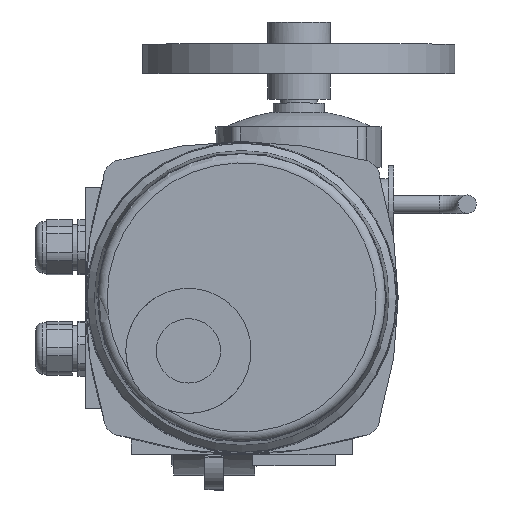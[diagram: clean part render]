
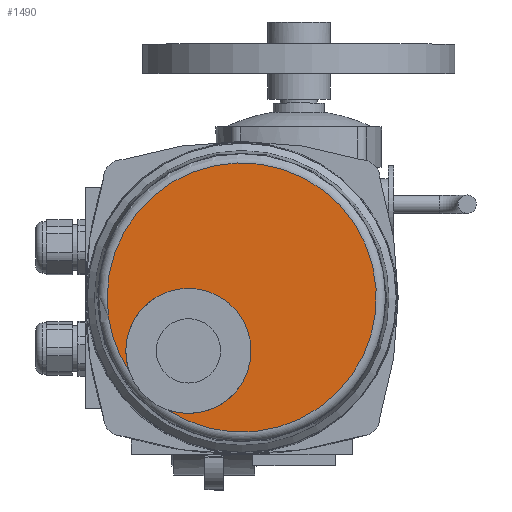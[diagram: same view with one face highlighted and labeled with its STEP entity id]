
A CAD part, top view. The second image highlights one B-rep face of the part: STEP entity #1490.
In plain terms, the highlighted planar face has unit normal (0, 0, 1).
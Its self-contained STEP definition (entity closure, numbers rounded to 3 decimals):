
#1490=ADVANCED_FACE('',(#8660),#8662,.T.);
#8660=FACE_BOUND('',#8661,.T.);
#8661=EDGE_LOOP('',(#14146,#14147,#14148,#14149));
#8662=PLANE('',#8663);
#8663=AXIS2_PLACEMENT_3D('',#8664,#8665,#8666);
#8664=CARTESIAN_POINT('',(15.,35.,427.));
#8665=DIRECTION('',(0.,0.,1.));
#8666=DIRECTION('',(-1.,0.,0.));
#14146=ORIENTED_EDGE('',*,*,#18231,.F.);
#14147=ORIENTED_EDGE('',*,*,#18232,.F.);
#14148=ORIENTED_EDGE('',*,*,#18218,.F.);
#14149=ORIENTED_EDGE('',*,*,#18217,.F.);
#18217=EDGE_CURVE('',#20718,#20721,#20722,.T.);
#18218=EDGE_CURVE('',#20721,#20719,#20723,.T.);
#18231=EDGE_CURVE('',#20744,#20718,#20745,.T.);
#18232=EDGE_CURVE('',#20719,#20744,#20746,.T.);
#20718=VERTEX_POINT('',#25659);
#20719=VERTEX_POINT('',#25660);
#20721=VERTEX_POINT('',#25689);
#20722=CIRCLE('',#25690,73.139);
#20723=CIRCLE('',#25694,73.139);
#20744=VERTEX_POINT('',#25747);
#20745=CIRCLE('',#25748,34.);
#20746=CIRCLE('',#25752,34.);
#25659=CARTESIAN_POINT('',(-46.08,-5.231,427.));
#25660=CARTESIAN_POINT('',(-25.231,-26.08,427.));
#25689=CARTESIAN_POINT('',(-58.139,35.,427.));
#25690=AXIS2_PLACEMENT_3D('',#25691,#25692,#25693);
#25691=CARTESIAN_POINT('',(15.,35.,427.));
#25692=DIRECTION('',(0.,0.,-1.));
#25693=DIRECTION('',(-0.835,-0.55,0.));
#25694=AXIS2_PLACEMENT_3D('',#25695,#25696,#25697);
#25695=CARTESIAN_POINT('',(15.,35.,427.));
#25696=DIRECTION('',(0.,0.,-1.));
#25697=DIRECTION('',(-1.,0.,0.));
#25747=CARTESIAN_POINT('',(-13.991,40.009,427.));
#25748=AXIS2_PLACEMENT_3D('',#25749,#25750,#25751);
#25749=CARTESIAN_POINT('',(-13.991,6.009,427.));
#25750=DIRECTION('',(0.,0.,1.));
#25751=DIRECTION('',(0.,1.,0.));
#25752=AXIS2_PLACEMENT_3D('',#25753,#25754,#25755);
#25753=CARTESIAN_POINT('',(-13.991,6.009,427.));
#25754=DIRECTION('',(0.,0.,1.));
#25755=DIRECTION('',(-0.331,-0.944,0.));
